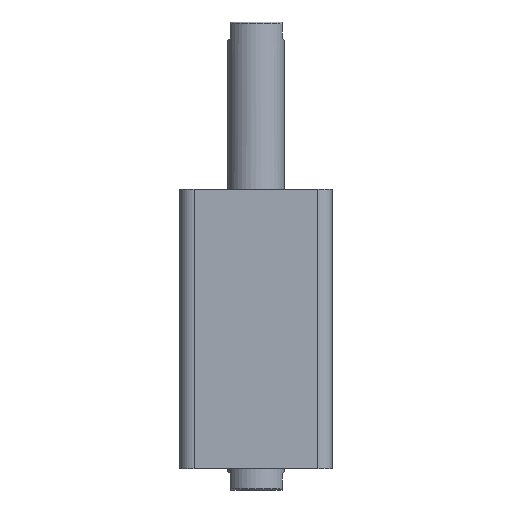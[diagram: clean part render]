
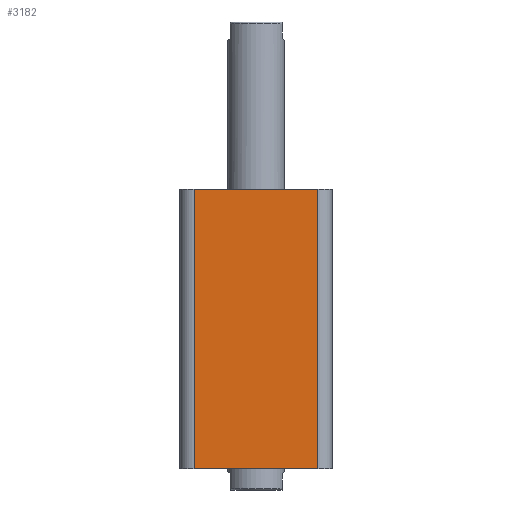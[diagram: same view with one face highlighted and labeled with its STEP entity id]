
A CAD part, front view. The second image highlights one B-rep face of the part: STEP entity #3182.
In plain terms, the highlighted planar face has unit normal (0, -1, 0).
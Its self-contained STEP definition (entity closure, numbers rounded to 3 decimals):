
#267 = VERTEX_POINT ( 'NONE', #3125 ) ;
#395 = DIRECTION ( 'NONE',  ( 1., 0., 0. ) ) ;
#407 = CARTESIAN_POINT ( 'NONE',  ( -47., -47., 172. ) ) ;
#602 = CARTESIAN_POINT ( 'NONE',  ( -47., -47., 0. ) ) ;
#603 = DIRECTION ( 'NONE',  ( 1., 0., 0. ) ) ;
#610 = CARTESIAN_POINT ( 'NONE',  ( -38., -47., 172. ) ) ;
#611 = DIRECTION ( 'NONE',  ( 0., 0., -1. ) ) ;
#793 = VERTEX_POINT ( 'NONE', #3061 ) ;
#794 = VERTEX_POINT ( 'NONE', #3060 ) ;
#795 = VERTEX_POINT ( 'NONE', #3059 ) ;
#891 = EDGE_LOOP ( 'NONE', ( #2159, #2160, #2161, #2162 ) ) ;
#1118 = EDGE_CURVE ( 'NONE', #795, #793, #2347, .T. ) ;
#1231 = EDGE_CURVE ( 'NONE', #267, #793, #2493, .T. ) ;
#1304 = EDGE_CURVE ( 'NONE', #794, #795, #2598, .T. ) ;
#1305 = EDGE_CURVE ( 'NONE', #267, #794, #2599, .T. ) ;
#1496 = AXIS2_PLACEMENT_3D ( 'NONE', #1639, #1643, #1644 ) ;
#1639 = CARTESIAN_POINT ( 'NONE',  ( -47., -47., 172. ) ) ;
#1641 = PLANE ( 'NONE',  #1496 ) ;
#1643 = DIRECTION ( 'NONE',  ( 0., 1., 0. ) ) ;
#1644 = DIRECTION ( 'NONE',  ( 0., 0., 1. ) ) ;
#2159 = ORIENTED_EDGE ( 'NONE', *, *, #1231, .F. ) ;
#2160 = ORIENTED_EDGE ( 'NONE', *, *, #1305, .T. ) ;
#2161 = ORIENTED_EDGE ( 'NONE', *, *, #1304, .T. ) ;
#2162 = ORIENTED_EDGE ( 'NONE', *, *, #1118, .T. ) ;
#2347 = LINE ( 'NONE', #3029, #2353 ) ;
#2353 = VECTOR ( 'NONE', #3055, 1000. ) ;
#2493 = LINE ( 'NONE', #407, #2496 ) ;
#2496 = VECTOR ( 'NONE', #395, 1000. ) ;
#2598 = LINE ( 'NONE', #602, #2600 ) ;
#2599 = LINE ( 'NONE', #610, #2602 ) ;
#2600 = VECTOR ( 'NONE', #603, 1000. ) ;
#2602 = VECTOR ( 'NONE', #611, 1000. ) ;
#2717 = FACE_OUTER_BOUND ( 'NONE', #891, .T. ) ;
#3029 = CARTESIAN_POINT ( 'NONE',  ( 38., -47., 172. ) ) ;
#3055 = DIRECTION ( 'NONE',  ( 0., 0., 1. ) ) ;
#3059 = CARTESIAN_POINT ( 'NONE',  ( 38., -47., 0. ) ) ;
#3060 = CARTESIAN_POINT ( 'NONE',  ( -38., -47., 0. ) ) ;
#3061 = CARTESIAN_POINT ( 'NONE',  ( 38., -47., 172. ) ) ;
#3125 = CARTESIAN_POINT ( 'NONE',  ( -38., -47., 172. ) ) ;
#3182 = ADVANCED_FACE ( 'NONE', ( #2717 ), #1641, .F. ) ;
